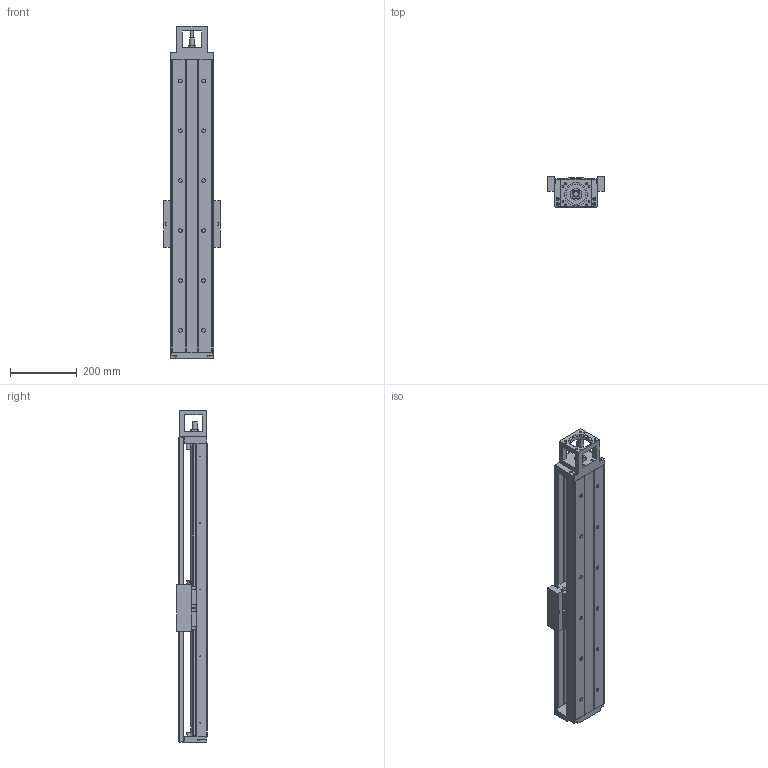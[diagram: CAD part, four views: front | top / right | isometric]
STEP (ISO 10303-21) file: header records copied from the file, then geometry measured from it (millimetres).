
FILE_DESCRIPTION(/* description */ (''),/* implementation_level */ '2;1');
FILE_NAME(/* name */ 'TKK130-880A1F0C.stp',/* time_stamp */ '2016-12-22T10:41:55+08:00',/* author */ (''),/* organization */ (''),/* preprocessor_version */ 'ST-DEVELOPER v15',/* originating_system */ 'SIEMENS PLM Software NX 8.5',/* authorisation */ '');
FILE_SCHEMA (('AUTOMOTIVE_DESIGN { 1 0 10303 214 3 1 1 1 }'));
Length unit declared in the file: millimetre
Products named in the file (3): 022; 011; TKK130-880A1F0C
Assembly tree (2 placements, depth 2):
  TKK130-880A1F0C
    011
    022
Bounding box: 170 x 92 x 998 mm (x, y, z)
Volume: 4775439.3 mm3; surface area: 994919.9 mm2
Topology: 2 solids, 12 shells, 1009 faces, 2762 edges, 1802 vertices
Faces by surface type: plane 580, cylinder 294, cone 95, extrusion 33, bspline 6, torus 1
Full cylindrical faces by diameter (mm): 2.1 x10, 2.5 x8, 3.3 x26, 4.5 x20, 5 x23, 6.6 x10, 6.8 x12, 7 x2, 8 x16, 8.5 x4, 9 x8, 11 x20, 12 x4, 15 x1, 16.3 x1, 17 x14, 17.5 x4, 25 x1, 35 x2, 40 x3, 60.03 x1, 70.03 x1
Entity records: 31275 total; most frequent: CARTESIAN_POINT 6869, DIRECTION 4704, ORIENTED_EDGE 4526, EDGE_CURVE 2263, VERTEX_POINT 1656, AXIS2_PLACEMENT_3D 1631, VECTOR 1442, EDGE_LOOP 1427
